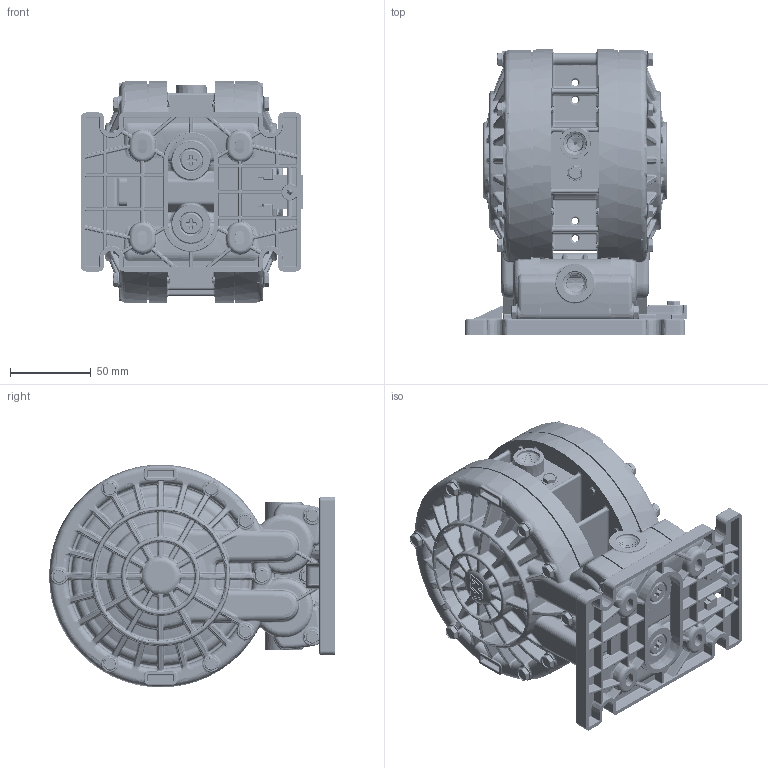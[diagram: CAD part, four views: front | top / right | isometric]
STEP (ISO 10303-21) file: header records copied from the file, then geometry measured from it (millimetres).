
FILE_DESCRIPTION((''),'2;1');
FILE_NAME('OEM25_PVDF_TOP_NEW_DE_SW0001','2018-06-07T',('10012910'),(''),'PRO/ENGINEER BY PARAMETRIC TECHNOLOGY CORPORATION, 2017170','PRO/ENGINEER BY PARAMETRIC TECHNOLOGY CORPORATION, 2017170','');
FILE_SCHEMA(('CONFIG_CONTROL_DESIGN'));
Products named in the file (1): OEM25_PVDF_TOP_NEW_DE_SW0001
Bounding box: 137.62 x 177.15 x 138.1 mm (x, y, z)
Volume: 745758.9 mm3; surface area: 421940.7 mm2
Topology: 3 solids, 3 shells, 15881 faces, 37156 edges, 21303 vertices
Faces by surface type: bspline 6228, cylinder 2831, plane 2608, torus 1669, sphere 1338, cone 1207
Entity records: 1188293 total; most frequent: CARTESIAN_POINT 874199, ORIENTED_EDGE 74276, DIRECTION 55025, EDGE_CURVE 37138, AXIS2_PLACEMENT_3D 23740, VERTEX_POINT 21303, EDGE_LOOP 16091, FACE_OUTER_BOUND 15881
